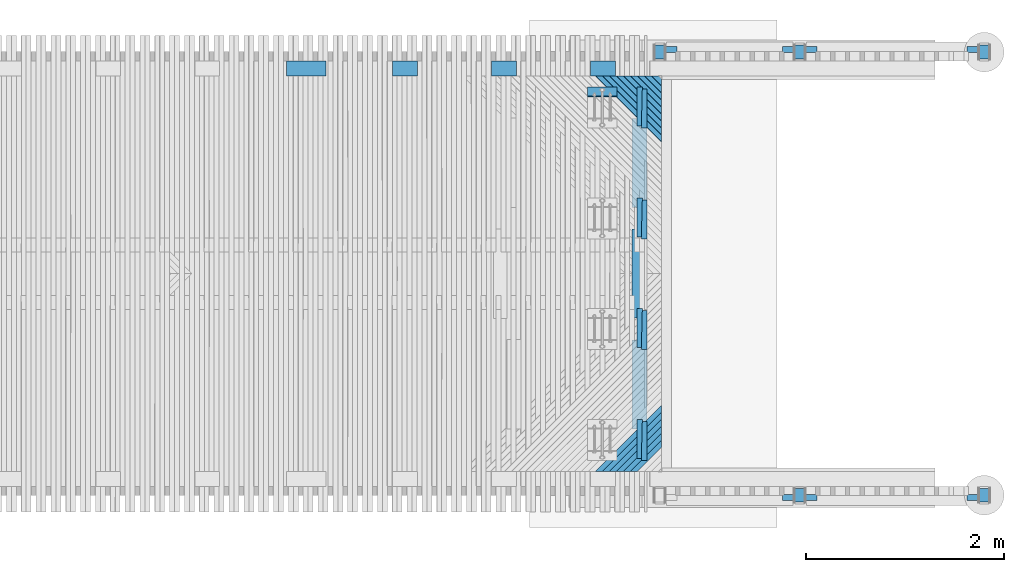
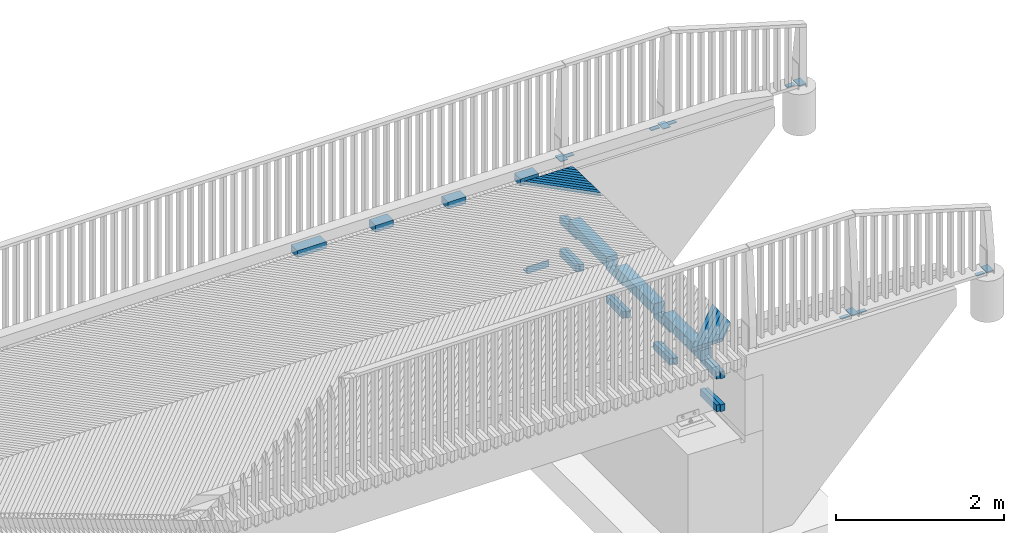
# One storey, part 45 of 47: 51 beams.
"""IFC2X3 building model written with IfcOpenShell, lengths in millimetres."""

from ifc_helpers import new_model, si_unit, frame, origin_with_axes, place, context, subcontext, project, spatial, faceted_brep, material, type_object, element, save


model = new_model("IFC2X3")

# Units and contexts
model_context = context("Model", 3, precision=1e-05, world=origin_with_axes())
body_context = subcontext(model_context, "Body", "Model", "MODEL_VIEW")
ifc_project = project(units=[si_unit("LENGTHUNIT", "METRE", prefix="MILLI"), si_unit("AREAUNIT", "SQUARE_METRE"), si_unit("VOLUMEUNIT", "CUBIC_METRE"), si_unit("MASSUNIT", "GRAM", prefix="KILO"), si_unit("TIMEUNIT", "SECOND"), si_unit("PLANEANGLEUNIT", "RADIAN"), si_unit("SOLIDANGLEUNIT", "STERADIAN"), si_unit("THERMODYNAMICTEMPERATUREUNIT", "DEGREE_CELSIUS"), si_unit("LUMINOUSINTENSITYUNIT", "LUMEN")], contexts=[model_context])

# Site, building, storey
site_placement = place(None, origin_with_axes())
site = spatial("IfcSite", under=ifc_project, at=site_placement, Name="Undefined", CompositionType="ELEMENT")
building_placement = place(site_placement, origin_with_axes())
building = spatial("IfcBuilding", under=site, at=building_placement, Name="Undefined", CompositionType="ELEMENT")
storey_placement = place(building_placement, origin_with_axes())
storey = spatial("IfcBuildingStorey", under=building, at=storey_placement, Name="Undefined", CompositionType="ELEMENT", Elevation=0.0)

# Beams
ifc_material_1 = material(Name="STEEL/AISI316")
beam_type_1 = type_object("IfcBeamType", Name="PL60*10", PredefinedType="NOTDEFINED")
for number, where, z_axis, x_axis in (
    (1, (19802.0394311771, 64630.0000002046, 3074.05721748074), (0.000116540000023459, -0.999999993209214, 0.0), (-0.999999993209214, -0.000116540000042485, 0.0)),
    (2, (16642.0268804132, 64630.0000002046, 3120.19233695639), (-0.000116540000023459, -0.999999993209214, 0.0), (0.999999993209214, -0.000116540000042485, 0.0)),
    (3, (18057.027339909, 64630.0000002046, 3100.31976226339), (-0.000116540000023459, -0.999999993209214, 0.0), (0.999999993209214, -0.000116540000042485, 0.0)),
    (4, (17937.0343320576, 64630.0000002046, 3100.31976226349), (0.000116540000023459, -0.999999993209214, 0.0), (-0.999999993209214, -0.000116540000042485, 0.0)),
    (5, (19802.0394311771, 60099.9999997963, 3074.05721748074), (0.000116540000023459, 0.999999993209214, 0.0), (-0.999999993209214, 0.000116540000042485, 0.0)),
    (6, (18057.027339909, 60099.9999997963, 3100.31976226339), (-0.000116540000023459, 0.999999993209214, 0.0), (0.999999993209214, 0.000116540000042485, 0.0)),
    (7, (17937.0343320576, 60099.9999997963, 3100.31976226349), (0.000116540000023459, 0.999999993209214, 0.0), (-0.999999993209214, 0.000116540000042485, 0.0)),
):
    element("IfcBeam", number, at=place(storey_placement, frame(where, z_axis=z_axis, x_axis=x_axis)), inside=storey, type_object=beam_type_1, material=ifc_material_1, Name="KAIDEPYLVÄS", ObjectType="PL60*10", context=body_context, shape_type="Brep", body=[
        faceted_brep([(3.63797880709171e-12, 5.0, -30.0), (0.0, 5.0, 30.0), (115.000000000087, 5.0, 29.9999999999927), (115.000000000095, 5.0, -30.0), (0.0, -5.0, 30.0), (115.000000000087, -5.0, 29.9999999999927), (3.63797880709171e-12, -5.0, -30.0), (115.000000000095, -5.0, -30.0)], [[[0, 1, 2, 3]], [[1, 4, 5, 2]], [[4, 6, 7, 5]], [[6, 0, 3, 7]], [[5, 7, 3, 2]], [[6, 4, 1, 0]]]),
    ])
beam_type_2 = type_object("IfcBeamType", Name="PL100*10", PredefinedType="NOTDEFINED")
for number, where, z_axis, x_axis in (
    (8, (19862.035934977, 64674.9800000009, 3091.31721748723), (1.0, 0.0, 0.0), (0.0, -1.0, 0.0)),
    (9, (16582.0303763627, 64674.9800000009, 3137.45233696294), (1.0, 0.0, 0.0), (0.0, -1.0, 0.0)),
    (10, (17997.0308358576, 64674.9800000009, 3117.57976226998), (1.0, 0.0, 0.0), (0.0, -1.0, 0.0)),
    (11, (19862.035934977, 60055.02, 3091.31721748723), (1.0, 0.0, 0.0), (0.0, 1.0, 0.0)),
    (12, (17997.0308358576, 60055.02, 3117.57976226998), (1.0, 0.0, 0.0), (0.0, 1.0, 0.0)),
):
    element("IfcBeam", number, at=place(storey_placement, frame(where, z_axis=z_axis, x_axis=x_axis)), inside=storey, type_object=beam_type_2, material=ifc_material_1, Name="KAIDEPYLVÄS", ObjectType="PL100*10", context=body_context, shape_type="Brep", body=[
        faceted_brep([(0.0, 5.0, -50.0), (0.0, 5.0, 50.0), (140.0, 5.0, 50.0), (140.0, 5.0, -50.0), (0.0, -5.0, 50.0), (140.0, -5.0, 50.0), (0.0, -5.0, -50.0), (140.0, -5.0, -50.0)], [[[0, 1, 2, 3]], [[1, 4, 5, 2]], [[4, 6, 7, 5]], [[6, 0, 3, 7]], [[5, 7, 3, 2]], [[6, 4, 1, 0]]]),
    ])
ifc_material_2 = material(Name="TIMBER/Timber_Undefined")
beam_type_3 = type_object("IfcBeamType", Name="150*100", PredefinedType="NOTDEFINED")
beam_1_placement = place(storey_placement, frame((12805.9377995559, 64439.9999999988, 3199.40960826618), z_axis=(0.0, -1.0, 0.0), x_axis=(0.999944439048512, 0.0, -0.0105412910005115)))
element("IfcBeam", 13, at=beam_1_placement, inside=storey, type_object=beam_type_3, material=ifc_material_2, Name="TÖRMÄYSJOHDE", ObjectType="150*100", context=body_context, shape_type="Brep", body=[
    faceted_brep([(-3.63797880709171e-12, 50.0, -75.0), (-3.63797880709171e-12, 50.0, 75.0), (399.996161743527, 49.9999999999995, 75.0), (399.996161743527, 49.9999999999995, -75.0), (0.0, -49.9999999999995, 75.0), (399.996161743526, -50.0000000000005, 75.0), (0.0, -49.9999999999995, -75.0), (399.996161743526, -50.0000000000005, -75.0)], [[[0, 1, 2, 3]], [[1, 4, 5, 2]], [[4, 6, 7, 5]], [[6, 0, 3, 7]], [[5, 7, 3, 2]], [[6, 4, 1, 0]]]),
])
for number, where, z_axis, x_axis in (
    (14, (15881.7966501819, 64439.9999999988, 3166.35655532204), (0.0, -1.0, 0.0), (0.999929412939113, 0.0, -0.0118814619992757)),
    (15, (14881.4642555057, 64439.9999999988, 3178.62153167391), (0.0, -1.0, 0.0), (0.999947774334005, 0.0, -0.0102200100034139)),
    (16, (13881.1128627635, 64439.9999999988, 3189.22438612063), (0.0, -1.0, 0.0), (0.99996337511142, 0.0, -0.00855853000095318)),
):
    element("IfcBeam", number, at=place(storey_placement, frame(where, z_axis=z_axis, x_axis=x_axis)), inside=storey, type_object=beam_type_3, material=ifc_material_2, Name="TÖRMÄYSJOHDE", ObjectType="150*100", context=body_context, shape_type="Brep", body=[
        faceted_brep([(-3.63797880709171e-12, 50.0, -75.0), (-3.63797880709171e-12, 50.0, 75.0), (250.000589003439, 50.0000000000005, 75.0), (250.000589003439, 50.0000000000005, -75.0), (0.0, -49.9999999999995, 75.0), (250.000589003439, -50.0, 75.0), (0.0, -49.9999999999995, -75.0), (250.000589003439, -50.0, -75.0)], [[[0, 1, 2, 3]], [[1, 4, 5, 2]], [[4, 6, 7, 5]], [[6, 0, 3, 7]], [[5, 7, 3, 2]], [[6, 4, 1, 0]]]),
    ])
beam_type_4 = type_object("IfcBeamType", Name="150*150", PredefinedType="NOTDEFINED")
for number, where, z_axis, x_axis, name in (
    (17, (16375.0061224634, 63035.0011300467, 2658.99214114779), (-4.45050000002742e-05, 0.0, 0.999999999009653), (0.0, 1.0, 0.0), "BEAM"),
    (18, (16375.0061224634, 61915.0011300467, 2658.99214114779), (-4.45050000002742e-05, 0.0, 0.999999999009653), (0.0, 1.0, 0.0), "BEAM"),
    (19, (16375.0061224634, 60795.0011300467, 2658.99214114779), (-4.45050000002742e-05, 0.0, 0.999999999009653), (0.0, 1.0, 0.0), "BEAM"),
):
    element("IfcBeam", number, at=place(storey_placement, frame(where, z_axis=z_axis, x_axis=x_axis)), inside=storey, type_object=beam_type_4, material=ifc_material_2, Name=name, ObjectType="150*150", context=body_context, shape_type="Brep", body=[
        faceted_brep([(3.63797880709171e-12, 75.0000000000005, -75.0), (3.63797880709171e-12, 75.0000000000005, 75.0), (900.0, 75.0, 75.0000000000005), (900.0, 74.9999999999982, -74.9999999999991), (0.0, -75.0000000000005, 75.0), (900.0, -75.0000000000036, 75.0000000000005), (0.0, -75.0000000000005, -75.0), (900.0, -75.0, -74.9999999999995)], [[[0, 1, 2, 3]], [[1, 4, 5, 2]], [[4, 6, 7, 5]], [[6, 0, 3, 7]], [[5, 7, 3, 2]], [[6, 4, 1, 0]]]),
    ])
beam_type_5 = type_object("IfcBeamType", Name="50*50", PredefinedType="NOTDEFINED")
beam_2_placement = place(storey_placement, frame((18531.7317784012, 62365.4998996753, 3144.0077743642), z_axis=(0.706781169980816, 0.706981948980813, -0.0252369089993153), x_axis=(-0.707258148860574, 0.706948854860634, -0.00303767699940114)))
element("IfcBeam", 20, at=beam_2_placement, inside=storey, type_object=beam_type_5, material=ifc_material_2, Name="BEAM", ObjectType="50*50", context=body_context, shape_type="Brep", body=[
    faceted_brep([(2804.34067830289, -24.9999999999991, 25.0), (2854.34301907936, -24.9999999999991, -25.0), (2852.92877373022, 25.0000000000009, -25.0), (2802.92643296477, 25.0000000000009, 25.0), (2756.83447595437, 25.0000000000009, 25.0), (2755.72500686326, -24.9999999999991, 25.0000000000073), (2705.75872714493, -24.9999999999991, -25.0), (2706.86819623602, 25.0000000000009, -24.9999999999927)], [[[0, 1, 2, 3]], [[0, 3, 4, 5]], [[1, 0, 5, 6]], [[2, 1, 6, 7]], [[3, 2, 7, 4]], [[6, 5, 4, 7]]]),
])
beam_3_placement = place(storey_placement, frame((18461.0182922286, 62365.4998996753, 3145.24068549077), z_axis=(0.706784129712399, 0.70698194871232, -0.0251538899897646), x_axis=(-0.70725778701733, 0.706948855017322, -0.00312075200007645)))
element("IfcBeam", 21, at=beam_3_placement, inside=storey, type_object=beam_type_5, material=ifc_material_2, Name="BEAM", ObjectType="50*50", context=body_context, shape_type="Brep", body=[
    faceted_brep([(2804.34067830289, -24.9999999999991, 25.0), (2854.34301907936, -24.9999999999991, -25.0), (2852.92877373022, 25.0000000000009, -25.0), (2802.92643296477, 25.0000000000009, 25.0), (2656.84922092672, 25.0, 25.0), (2655.74805253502, -25.0, 25.0000000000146), (2605.78153801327, -25.0000000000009, -24.9999999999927), (2606.88270640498, 25.0, -25.0)], [[[0, 1, 2, 3]], [[0, 3, 4, 5]], [[1, 0, 5, 6]], [[2, 1, 6, 7]], [[3, 2, 7, 4]], [[6, 5, 4, 7]]]),
])
beam_4_placement = place(storey_placement, frame((18390.3046617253, 62365.4998996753, 3146.4652905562), z_axis=(0.70678707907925, 0.706981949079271, -0.0250708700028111), x_axis=(-0.707257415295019, 0.706948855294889, -0.00320382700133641)))
element("IfcBeam", 22, at=beam_4_placement, inside=storey, type_object=beam_type_5, material=ifc_material_2, Name="BEAM", ObjectType="50*50", context=body_context, shape_type="Brep", body=[
    faceted_brep([(2804.34067830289, -24.9999999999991, 25.0), (2854.34301907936, -24.9999999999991, -25.0), (2852.92877373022, 25.0000000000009, -25.0), (2802.92643296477, 25.0000000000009, 25.0), (2556.86369484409, 25.0000000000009, 24.9999999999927), (2555.77082719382, -25.0, 24.9999999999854), (2505.80407790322, -25.0, -25.0000000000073), (2506.89694555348, 25.0, -25.0)], [[[0, 1, 2, 3]], [[0, 3, 4, 5]], [[1, 0, 5, 6]], [[2, 1, 6, 7]], [[3, 2, 7, 4]], [[6, 5, 4, 7]]]),
])
beam_5_placement = place(storey_placement, frame((18319.5908878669, 62364.5001003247, 3147.68158954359), z_axis=(0.706790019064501, -0.706981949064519, -0.0249878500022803), x_axis=(-0.707257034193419, -0.706948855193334, -0.00328690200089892)))
element("IfcBeam", 23, at=beam_5_placement, inside=storey, type_object=beam_type_5, material=ifc_material_2, Name="BEAM", ObjectType="50*50", context=body_context, shape_type="Brep", body=[
    faceted_brep([(2802.92643296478, -25.0000000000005, 25.0000000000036), (2852.92877373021, -25.0000000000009, -24.9999999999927), (2854.34301907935, 24.9999999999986, -24.9999999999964), (2804.3406783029, 24.9999999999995, 25.0000000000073), (2405.82634224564, 25.0000000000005, -25.0), (2455.79332630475, 25.0000000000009, 25.0000000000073), (2456.87789321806, -24.9999999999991, 25.0000000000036), (2406.91090915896, -24.9999999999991, -24.9999999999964)], [[[0, 1, 2, 3]], [[3, 2, 4, 5]], [[0, 3, 5, 6]], [[1, 0, 6, 7]], [[2, 1, 7, 4]], [[6, 5, 4, 7]]]),
])
beam_6_placement = place(storey_placement, frame((18319.5908878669, 62365.4998996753, 3147.68158954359), z_axis=(0.706790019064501, 0.706981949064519, -0.0249878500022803), x_axis=(-0.707257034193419, 0.706948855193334, -0.00328690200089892)))
element("IfcBeam", 24, at=beam_6_placement, inside=storey, type_object=beam_type_5, material=ifc_material_2, Name="BEAM", ObjectType="50*50", context=body_context, shape_type="Brep", body=[
    faceted_brep([(2804.34067830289, -24.9999999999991, 25.0), (2854.34301907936, -24.9999999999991, -25.0), (2852.92877373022, 25.0000000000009, -25.0), (2802.92643296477, 25.0000000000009, 25.0), (2456.87789321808, 25.0, 25.0000000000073), (2455.79332630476, -25.0, 25.0000000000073), (2405.82634224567, -25.0, -25.0), (2406.91090915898, 24.9999999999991, -24.9999999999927)], [[[0, 1, 2, 3]], [[0, 3, 4, 5]], [[1, 0, 5, 6]], [[2, 1, 6, 7]], [[3, 2, 7, 4]], [[6, 5, 4, 7]]]),
])
beam_7_placement = place(storey_placement, frame((18248.8769716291, 62364.5001003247, 3148.88958243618), z_axis=(0.706792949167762, -0.706981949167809, -0.0249048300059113), x_axis=(-0.707256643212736, -0.706948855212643, -0.00336997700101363)))
element("IfcBeam", 25, at=beam_7_placement, inside=storey, type_object=beam_type_5, material=ifc_material_2, Name="BEAM", ObjectType="50*50", context=body_context, shape_type="Brep", body=[
    faceted_brep([(2802.92643296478, -25.0000000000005, 25.0000000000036), (2852.92877373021, -25.0000000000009, -24.9999999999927), (2854.34301907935, 24.9999999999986, -24.9999999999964), (2804.3406783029, 24.9999999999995, 25.0000000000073), (2305.84833008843, 25.0, -24.9999999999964), (2355.81554891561, 24.9999999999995, 25.0000000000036), (2356.89181509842, -25.0000000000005, 25.0000000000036), (2306.92459627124, -25.0, -24.9999999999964)], [[[0, 1, 2, 3]], [[3, 2, 4, 5]], [[0, 3, 5, 6]], [[1, 0, 6, 7]], [[2, 1, 7, 4]], [[6, 5, 4, 7]]]),
])
beam_8_placement = place(storey_placement, frame((18248.8769716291, 62365.4998996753, 3148.88958243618), z_axis=(0.706792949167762, 0.706981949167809, -0.0249048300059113), x_axis=(-0.707256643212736, 0.706948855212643, -0.00336997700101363)))
element("IfcBeam", 26, at=beam_8_placement, inside=storey, type_object=beam_type_5, material=ifc_material_2, Name="BEAM", ObjectType="50*50", context=body_context, shape_type="Brep", body=[
    faceted_brep([(2804.34067830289, -24.9999999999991, 25.0), (2854.34301907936, -24.9999999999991, -25.0), (2852.92877373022, 25.0000000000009, -25.0), (2802.92643296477, 25.0000000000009, 25.0), (2356.89181509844, 25.0, 25.0), (2355.81554891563, -25.0, 25.0), (2305.84833008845, -25.0, -25.0), (2306.92459627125, 25.0, -25.0)], [[[0, 1, 2, 3]], [[0, 3, 4, 5]], [[1, 0, 5, 6]], [[2, 1, 6, 7]], [[3, 2, 7, 4]], [[6, 5, 4, 7]]]),
])
beam_9_placement = place(storey_placement, frame((18178.1629139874, 62364.5001003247, 3150.08926921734), z_axis=(0.706795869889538, -0.706981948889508, -0.0248218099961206), x_axis=(-0.707256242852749, -0.706948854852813, -0.00345305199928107)))
element("IfcBeam", 27, at=beam_9_placement, inside=storey, type_object=beam_type_5, material=ifc_material_2, Name="BEAM", ObjectType="50*50", context=body_context, shape_type="Brep", body=[
    faceted_brep([(2802.92643296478, -25.0000000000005, 25.0000000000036), (2852.92877373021, -25.0000000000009, -24.9999999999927), (2854.34301907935, 24.9999999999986, -24.9999999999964), (2804.3406783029, 24.9999999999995, 25.0000000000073), (2205.87003704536, 25.0000000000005, -24.9999999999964), (2255.83749064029, 25.0, 24.9999999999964), (2256.90545609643, -25.0000000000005, 24.9999999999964), (2206.93800250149, -24.9999999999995, -25.0)], [[[0, 1, 2, 3]], [[3, 2, 4, 5]], [[0, 3, 5, 6]], [[1, 0, 6, 7]], [[2, 1, 7, 4]], [[6, 5, 4, 7]]]),
])
beam_10_placement = place(storey_placement, frame((18178.1629139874, 62365.4998996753, 3150.08926921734), z_axis=(0.706795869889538, 0.706981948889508, -0.0248218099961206), x_axis=(-0.707256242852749, 0.706948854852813, -0.00345305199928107)))
element("IfcBeam", 28, at=beam_10_placement, inside=storey, type_object=beam_type_5, material=ifc_material_2, Name="BEAM", ObjectType="50*50", context=body_context, shape_type="Brep", body=[
    faceted_brep([(2804.34067830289, -24.9999999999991, 25.0), (2854.34301907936, -24.9999999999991, -25.0), (2852.92877373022, 25.0000000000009, -25.0), (2802.92643296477, 25.0000000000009, 25.0), (2256.90545609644, 25.0000000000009, 24.9999999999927), (2255.8374906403, -24.9999999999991, 24.9999999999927), (2205.87003704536, -25.0, -25.0), (2206.9380025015, 25.0, -25.0)], [[[0, 1, 2, 3]], [[0, 3, 4, 5]], [[1, 0, 5, 6]], [[2, 1, 6, 7]], [[3, 2, 7, 4]], [[6, 5, 4, 7]]]),
])
beam_11_placement = place(storey_placement, frame((18107.4487159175, 62364.5001003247, 3151.28064987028), z_axis=(0.706798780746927, -0.706981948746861, -0.0247387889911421), x_axis=(-0.707255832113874, -0.706948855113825, -0.00353612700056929)))
element("IfcBeam", 29, at=beam_11_placement, inside=storey, type_object=beam_type_5, material=ifc_material_2, Name="BEAM", ObjectType="50*50", context=body_context, shape_type="Brep", body=[
    faceted_brep([(2802.92643296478, -25.0000000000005, 25.0000000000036), (2852.92877373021, -25.0000000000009, -24.9999999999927), (2854.34301907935, 24.9999999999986, -24.9999999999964), (2804.3406783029, 24.9999999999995, 25.0000000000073), (2105.891463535, 24.9999999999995, -24.9999999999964), (2155.85915193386, 24.9999999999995, 25.0000000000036), (2156.91881662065, -24.9999999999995, 25.0), (2106.95112822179, -24.9999999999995, -24.9999999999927)], [[[0, 1, 2, 3]], [[3, 2, 4, 5]], [[0, 3, 5, 6]], [[1, 0, 6, 7]], [[2, 1, 7, 4]], [[6, 5, 4, 7]]]),
])
beam_12_placement = place(storey_placement, frame((18107.4487159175, 62365.4998996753, 3151.28064987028), z_axis=(0.706798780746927, 0.706981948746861, -0.0247387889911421), x_axis=(-0.707255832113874, 0.706948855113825, -0.00353612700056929)))
element("IfcBeam", 30, at=beam_12_placement, inside=storey, type_object=beam_type_5, material=ifc_material_2, Name="BEAM", ObjectType="50*50", context=body_context, shape_type="Brep", body=[
    faceted_brep([(2804.34067830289, -24.9999999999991, 25.0), (2854.34301907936, -24.9999999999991, -25.0), (2852.92877373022, 25.0000000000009, -25.0), (2802.92643296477, 25.0000000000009, 25.0), (2156.91881662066, 24.9999999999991, 24.9999999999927), (2155.85915193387, -25.0, 25.0000000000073), (2105.891463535, -25.0, -24.9999999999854), (2106.9511282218, 24.9999999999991, -24.9999999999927)], [[[0, 1, 2, 3]], [[0, 3, 4, 5]], [[1, 0, 5, 6]], [[2, 1, 6, 7]], [[3, 2, 7, 4]], [[6, 5, 4, 7]]]),
])
beam_13_placement = place(storey_placement, frame((18036.7343783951, 62364.5001003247, 3152.46372437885), z_axis=(0.706801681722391, -0.706981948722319, -0.024655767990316), x_axis=(-0.707255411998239, -0.70694885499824, -0.00361920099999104)))
element("IfcBeam", 31, at=beam_13_placement, inside=storey, type_object=beam_type_5, material=ifc_material_2, Name="BEAM", ObjectType="50*50", context=body_context, shape_type="Brep", body=[
    faceted_brep([(2802.92643296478, -25.0000000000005, 25.0000000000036), (2852.92877373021, -25.0000000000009, -24.9999999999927), (2854.34301907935, 24.9999999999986, -24.9999999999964), (2804.3406783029, 24.9999999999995, 25.0000000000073), (2005.91260364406, 24.9999999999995, -24.9999999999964), (2055.88052681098, 25.0, 25.0), (2056.9318907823, -25.0, 25.0), (2006.96396761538, -25.0000000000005, -25.0000000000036)], [[[0, 1, 2, 3]], [[3, 2, 4, 5]], [[0, 3, 5, 6]], [[1, 0, 6, 7]], [[2, 1, 7, 4]], [[6, 5, 4, 7]]]),
])
beam_14_placement = place(storey_placement, frame((18036.7343783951, 62365.4998996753, 3152.46372437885), z_axis=(0.706801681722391, 0.706981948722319, -0.024655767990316), x_axis=(-0.707255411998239, 0.70694885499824, -0.00361920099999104)))
element("IfcBeam", 32, at=beam_14_placement, inside=storey, type_object=beam_type_5, material=ifc_material_2, Name="BEAM", ObjectType="50*50", context=body_context, shape_type="Brep", body=[
    faceted_brep([(2804.34067830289, -24.9999999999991, 25.0), (2854.34301907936, -24.9999999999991, -25.0), (2852.92877373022, 25.0000000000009, -25.0), (2802.92643296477, 25.0000000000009, 25.0), (2056.93189078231, 25.0000000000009, 25.0000000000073), (2055.88052681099, -24.9999999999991, 25.0), (2005.91260364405, -24.9999999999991, -24.9999999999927), (2006.96396761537, 25.0000000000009, -25.0)], [[[0, 1, 2, 3]], [[0, 3, 4, 5]], [[1, 0, 5, 6]], [[2, 1, 6, 7]], [[3, 2, 7, 4]], [[6, 5, 4, 7]]]),
])
beam_15_placement = place(storey_placement, frame((17966.0199023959, 62364.5001003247, 3153.6384927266), z_axis=(0.70680457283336, -0.706981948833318, -0.0245727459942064), x_axis=(-0.707254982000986, -0.706948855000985, -0.00370227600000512)))
element("IfcBeam", 33, at=beam_15_placement, inside=storey, type_object=beam_type_5, material=ifc_material_2, Name="BEAM", ObjectType="50*50", context=body_context, shape_type="Brep", body=[
    faceted_brep([(2802.92643296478, -25.0000000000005, 25.0000000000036), (2852.92877373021, -25.0000000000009, -24.9999999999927), (2854.34301907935, 24.9999999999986, -24.9999999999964), (2804.3406783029, 24.9999999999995, 25.0000000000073), (1905.93345620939, 25.0, -25.0000000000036), (1955.90161414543, 24.9999999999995, 25.0), (1956.94467730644, -25.0, 25.0000000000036), (1906.9765193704, -25.0, -25.0000000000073)], [[[0, 1, 2, 3]], [[3, 2, 4, 5]], [[0, 3, 5, 6]], [[1, 0, 6, 7]], [[2, 1, 7, 4]], [[6, 5, 4, 7]]]),
])
beam_16_placement = place(storey_placement, frame((17966.0199023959, 62365.4998996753, 3153.6384927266), z_axis=(0.70680457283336, 0.706981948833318, -0.0245727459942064), x_axis=(-0.707254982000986, 0.706948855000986, -0.00370227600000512)))
element("IfcBeam", 34, at=beam_16_placement, inside=storey, type_object=beam_type_5, material=ifc_material_2, Name="BEAM", ObjectType="50*50", context=body_context, shape_type="Brep", body=[
    faceted_brep([(2804.34067830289, -24.9999999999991, 25.0), (2854.34301907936, -24.9999999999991, -25.0), (2852.92877373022, 25.0000000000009, -25.0), (2802.92643296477, 25.0000000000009, 25.0), (1956.94467730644, 25.0, 25.0), (1955.90161414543, -25.0000000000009, 25.0), (1905.9334562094, -25.0000000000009, -25.0), (1906.9765193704, 25.0, -25.0)], [[[0, 1, 2, 3]], [[0, 3, 4, 5]], [[1, 0, 5, 6]], [[2, 1, 6, 7]], [[3, 2, 7, 4]], [[6, 5, 4, 7]]]),
])
ifc_material_3 = material(Name="STEEL/S235JR")
beam_type_6 = type_object("IfcBeamType", Name="L100*10", PredefinedType="NOTDEFINED")
beam_17_placement = place(storey_placement, frame((16150.0, 64202.5000000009, 2025.33), z_axis=(0.0, 0.0, 1.0), x_axis=(-1.0, 0.0, 0.0)))
element("IfcBeam", 35, at=beam_17_placement, inside=storey, type_object=beam_type_6, material=ifc_material_3, Name="BEAM", ObjectType="L100*10", context=body_context, shape_type="Brep", body=[
    faceted_brep([(0.0, 50.0, -50.0), (0.0, 50.0, 50.0), (300.0, 50.0, 50.0), (300.0, 50.0, -50.0), (0.0, 40.0, 50.0), (300.0, 40.0, 50.0), (0.0, 40.0, -40.0), (300.0, 40.0, -40.0), (0.0, -50.0, -40.0), (300.0, -50.0, -40.0), (0.0, -50.0, -50.0), (300.0, -50.0, -50.0)], [[[0, 1, 2, 3]], [[1, 4, 5, 2]], [[4, 6, 7, 5]], [[6, 8, 9, 7]], [[8, 10, 11, 9]], [[10, 0, 3, 11]], [[5, 7, 9, 11, 3, 2]], [[10, 8, 6, 4, 1, 0]]]),
])
beam_type_7 = type_object("IfcBeamType", Name="100*60", PredefinedType="NOTDEFINED")
beam_18_placement = place(storey_placement, frame((16380.01, 63857.5, 2533.62000000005), z_axis=(0.0, 0.0, 1.0), x_axis=(0.0, 1.0, 0.0)))
element("IfcBeam", 36, at=beam_18_placement, inside=storey, type_object=beam_type_7, material=ifc_material_2, Name="BEAM", ObjectType="100*60", context=body_context, shape_type="Brep", body=[
    faceted_brep([(0.0, 30.0, -50.0), (0.0, 30.0, 50.0), (395.0, 30.0, 50.0), (395.0, 30.0, -50.0), (395.0, -25.2500000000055, 50.0), (395.0, -25.2500000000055, -50.0), (0.0, -15.2499998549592, -50.0), (0.0, -15.2499998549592, 50.0)], [[[0, 1, 2, 3]], [[3, 2, 4, 5]], [[0, 3, 5, 6]], [[1, 0, 6, 7]], [[2, 1, 7, 4]], [[6, 5, 4, 7]]]),
])
beam_19_placement = place(storey_placement, frame((16420.01, 63837.5, 2533.62000000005), z_axis=(0.0, 0.0, 1.0), x_axis=(0.0, 1.0, 0.0)))
element("IfcBeam", 37, at=beam_19_placement, inside=storey, type_object=beam_type_7, material=ifc_material_2, Name="BEAM", ObjectType="100*60", context=body_context, shape_type="Brep", body=[
    faceted_brep([(0.0, -30.0, 50.0), (0.0, -30.0, -50.0), (395.0, -30.0, -50.0), (395.0, -30.0, 50.0), (395.0, 15.2563291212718, 50.0), (0.0, 25.2563292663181, 50.0), (0.0, 25.2563292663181, -50.0), (395.0, 15.2563291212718, -50.0)], [[[0, 1, 2, 3]], [[0, 3, 4, 5]], [[1, 0, 5, 6]], [[2, 1, 6, 7]], [[3, 2, 7, 4]], [[6, 5, 4, 7]]]),
])
beam_20_placement = place(storey_placement, frame((16380.0, 63857.5, 2055.33), z_axis=(0.0, 0.0, 1.0), x_axis=(0.0, 1.0, 0.0)))
element("IfcBeam", 38, at=beam_20_placement, inside=storey, type_object=beam_type_7, material=ifc_material_2, Name="BEAM", ObjectType="100*60", context=body_context, shape_type="Brep", body=[
    faceted_brep([(0.0, 30.0, -50.0), (0.0, 30.0, 50.0), (395.0, 30.0, 50.0), (395.0, 30.0, -50.0), (395.0, -25.2500000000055, 50.0), (395.0, -25.2500000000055, -50.0), (0.0, -15.2499998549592, -50.0), (0.0, -15.2499998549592, 50.0)], [[[0, 1, 2, 3]], [[3, 2, 4, 5]], [[0, 3, 5, 6]], [[1, 0, 6, 7]], [[2, 1, 7, 4]], [[6, 5, 4, 7]]]),
])
beam_21_placement = place(storey_placement, frame((16420.0, 63837.5, 2055.33), z_axis=(0.0, 0.0, 1.0), x_axis=(0.0, 1.0, 0.0)))
element("IfcBeam", 39, at=beam_21_placement, inside=storey, type_object=beam_type_7, material=ifc_material_2, Name="BEAM", ObjectType="100*60", context=body_context, shape_type="Brep", body=[
    faceted_brep([(0.0, -30.0, 50.0), (0.0, -30.0, -50.0), (395.0, -30.0, -50.0), (395.0, -30.0, 50.0), (395.0, 15.2563291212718, 50.0), (0.0, 25.2563292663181, 50.0), (0.0, 25.2563292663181, -50.0), (395.0, 15.2563291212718, -50.0)], [[[0, 1, 2, 3]], [[0, 3, 4, 5]], [[1, 0, 5, 6]], [[2, 1, 6, 7]], [[3, 2, 7, 4]], [[6, 5, 4, 7]]]),
])
beam_22_placement = place(storey_placement, frame((16380.01, 62737.5, 2533.62000000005), z_axis=(0.0, 0.0, 1.0), x_axis=(0.0, 1.0, 0.0)))
element("IfcBeam", 40, at=beam_22_placement, inside=storey, type_object=beam_type_7, material=ifc_material_2, Name="BEAM", ObjectType="100*60", context=body_context, shape_type="Brep", body=[
    faceted_brep([(0.0, 30.0, -50.0), (0.0, 30.0, 50.0), (395.0, 30.0, 50.0), (395.0, 30.0, -50.0), (395.0, -25.2500000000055, 50.0), (395.0, -25.2500000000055, -50.0), (0.0, -15.2499998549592, -50.0), (0.0, -15.2499998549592, 50.0)], [[[0, 1, 2, 3]], [[3, 2, 4, 5]], [[0, 3, 5, 6]], [[1, 0, 6, 7]], [[2, 1, 7, 4]], [[6, 5, 4, 7]]]),
])
beam_23_placement = place(storey_placement, frame((16420.01, 62717.5, 2533.62000000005), z_axis=(0.0, 0.0, 1.0), x_axis=(0.0, 1.0, 0.0)))
element("IfcBeam", 41, at=beam_23_placement, inside=storey, type_object=beam_type_7, material=ifc_material_2, Name="BEAM", ObjectType="100*60", context=body_context, shape_type="Brep", body=[
    faceted_brep([(0.0, -30.0, 50.0), (0.0, -30.0, -50.0), (395.0, -30.0, -50.0), (395.0, -30.0, 50.0), (395.0, 15.2563291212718, 50.0), (0.0, 25.2563292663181, 50.0), (0.0, 25.2563292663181, -50.0), (395.0, 15.2563291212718, -50.0)], [[[0, 1, 2, 3]], [[0, 3, 4, 5]], [[1, 0, 5, 6]], [[2, 1, 6, 7]], [[3, 2, 7, 4]], [[6, 5, 4, 7]]]),
])
beam_24_placement = place(storey_placement, frame((16380.0, 62737.5, 2055.33), z_axis=(0.0, 0.0, 1.0), x_axis=(0.0, 1.0, 0.0)))
element("IfcBeam", 42, at=beam_24_placement, inside=storey, type_object=beam_type_7, material=ifc_material_2, Name="BEAM", ObjectType="100*60", context=body_context, shape_type="Brep", body=[
    faceted_brep([(0.0, 30.0, -50.0), (0.0, 30.0, 50.0), (395.0, 30.0, 50.0), (395.0, 30.0, -50.0), (395.0, -25.2500000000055, 50.0), (395.0, -25.2500000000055, -50.0), (0.0, -15.2499998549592, -50.0), (0.0, -15.2499998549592, 50.0)], [[[0, 1, 2, 3]], [[3, 2, 4, 5]], [[0, 3, 5, 6]], [[1, 0, 6, 7]], [[2, 1, 7, 4]], [[6, 5, 4, 7]]]),
])
beam_25_placement = place(storey_placement, frame((16420.0, 62717.5, 2055.33), z_axis=(0.0, 0.0, 1.0), x_axis=(0.0, 1.0, 0.0)))
element("IfcBeam", 43, at=beam_25_placement, inside=storey, type_object=beam_type_7, material=ifc_material_2, Name="BEAM", ObjectType="100*60", context=body_context, shape_type="Brep", body=[
    faceted_brep([(0.0, -30.0, 50.0), (0.0, -30.0, -50.0), (395.0, -30.0, -50.0), (395.0, -30.0, 50.0), (395.0, 15.2563291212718, 50.0), (0.0, 25.2563292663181, 50.0), (0.0, 25.2563292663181, -50.0), (395.0, 15.2563291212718, -50.0)], [[[0, 1, 2, 3]], [[0, 3, 4, 5]], [[1, 0, 5, 6]], [[2, 1, 6, 7]], [[3, 2, 7, 4]], [[6, 5, 4, 7]]]),
])
beam_26_placement = place(storey_placement, frame((16380.01, 61617.5, 2533.62000000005), z_axis=(0.0, 0.0, 1.0), x_axis=(0.0, 1.0, 0.0)))
element("IfcBeam", 44, at=beam_26_placement, inside=storey, type_object=beam_type_7, material=ifc_material_2, Name="BEAM", ObjectType="100*60", context=body_context, shape_type="Brep", body=[
    faceted_brep([(0.0, 30.0, -50.0), (0.0, 30.0, 50.0), (395.0, 30.0, 50.0), (395.0, 30.0, -50.0), (395.0, -25.2500000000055, 50.0), (395.0, -25.2500000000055, -50.0), (0.0, -15.2499998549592, -50.0), (0.0, -15.2499998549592, 50.0)], [[[0, 1, 2, 3]], [[3, 2, 4, 5]], [[0, 3, 5, 6]], [[1, 0, 6, 7]], [[2, 1, 7, 4]], [[6, 5, 4, 7]]]),
])
beam_27_placement = place(storey_placement, frame((16420.01, 61597.5, 2533.62000000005), z_axis=(0.0, 0.0, 1.0), x_axis=(0.0, 1.0, 0.0)))
element("IfcBeam", 45, at=beam_27_placement, inside=storey, type_object=beam_type_7, material=ifc_material_2, Name="BEAM", ObjectType="100*60", context=body_context, shape_type="Brep", body=[
    faceted_brep([(0.0, -30.0, 50.0), (0.0, -30.0, -50.0), (395.0, -30.0, -50.0), (395.0, -30.0, 50.0), (395.0, 15.2563291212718, 50.0), (0.0, 25.2563292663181, 50.0), (0.0, 25.2563292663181, -50.0), (395.0, 15.2563291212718, -50.0)], [[[0, 1, 2, 3]], [[0, 3, 4, 5]], [[1, 0, 5, 6]], [[2, 1, 6, 7]], [[3, 2, 7, 4]], [[6, 5, 4, 7]]]),
])
beam_28_placement = place(storey_placement, frame((16380.0, 61617.5, 2055.33), z_axis=(0.0, 0.0, 1.0), x_axis=(0.0, 1.0, 0.0)))
element("IfcBeam", 46, at=beam_28_placement, inside=storey, type_object=beam_type_7, material=ifc_material_2, Name="BEAM", ObjectType="100*60", context=body_context, shape_type="Brep", body=[
    faceted_brep([(0.0, 30.0, -50.0), (0.0, 30.0, 50.0), (395.0, 30.0, 50.0), (395.0, 30.0, -50.0), (395.0, -25.2500000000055, 50.0), (395.0, -25.2500000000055, -50.0), (0.0, -15.2499998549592, -50.0), (0.0, -15.2499998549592, 50.0)], [[[0, 1, 2, 3]], [[3, 2, 4, 5]], [[0, 3, 5, 6]], [[1, 0, 6, 7]], [[2, 1, 7, 4]], [[6, 5, 4, 7]]]),
])
beam_29_placement = place(storey_placement, frame((16420.0, 61597.5, 2055.33), z_axis=(0.0, 0.0, 1.0), x_axis=(0.0, 1.0, 0.0)))
element("IfcBeam", 47, at=beam_29_placement, inside=storey, type_object=beam_type_7, material=ifc_material_2, Name="BEAM", ObjectType="100*60", context=body_context, shape_type="Brep", body=[
    faceted_brep([(0.0, -30.0, 50.0), (0.0, -30.0, -50.0), (395.0, -30.0, -50.0), (395.0, -30.0, 50.0), (395.0, 15.2563291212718, 50.0), (0.0, 25.2563292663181, 50.0), (0.0, 25.2563292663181, -50.0), (395.0, 15.2563291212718, -50.0)], [[[0, 1, 2, 3]], [[0, 3, 4, 5]], [[1, 0, 5, 6]], [[2, 1, 6, 7]], [[3, 2, 7, 4]], [[6, 5, 4, 7]]]),
])
beam_30_placement = place(storey_placement, frame((16380.01, 60497.5, 2533.62000000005), z_axis=(0.0, 0.0, 1.0), x_axis=(0.0, 1.0, 0.0)))
element("IfcBeam", 48, at=beam_30_placement, inside=storey, type_object=beam_type_7, material=ifc_material_2, Name="BEAM", ObjectType="100*60", context=body_context, shape_type="Brep", body=[
    faceted_brep([(0.0, 30.0, -50.0), (0.0, 30.0, 50.0), (395.0, 30.0, 50.0), (395.0, 30.0, -50.0), (395.0, -25.2500000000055, 50.0), (395.0, -25.2500000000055, -50.0), (0.0, -15.2499998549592, -50.0), (0.0, -15.2499998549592, 50.0)], [[[0, 1, 2, 3]], [[3, 2, 4, 5]], [[0, 3, 5, 6]], [[1, 0, 6, 7]], [[2, 1, 7, 4]], [[6, 5, 4, 7]]]),
])
beam_31_placement = place(storey_placement, frame((16420.01, 60477.5, 2533.62000000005), z_axis=(0.0, 0.0, 1.0), x_axis=(0.0, 1.0, 0.0)))
element("IfcBeam", 49, at=beam_31_placement, inside=storey, type_object=beam_type_7, material=ifc_material_2, Name="BEAM", ObjectType="100*60", context=body_context, shape_type="Brep", body=[
    faceted_brep([(0.0, -30.0, 50.0), (0.0, -30.0, -50.0), (395.0, -30.0, -50.0), (395.0, -30.0, 50.0), (395.0, 15.2563291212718, 50.0), (0.0, 25.2563292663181, 50.0), (0.0, 25.2563292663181, -50.0), (395.0, 15.2563291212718, -50.0)], [[[0, 1, 2, 3]], [[0, 3, 4, 5]], [[1, 0, 5, 6]], [[2, 1, 6, 7]], [[3, 2, 7, 4]], [[6, 5, 4, 7]]]),
])
beam_32_placement = place(storey_placement, frame((16380.0, 60497.5, 2055.33), z_axis=(0.0, 0.0, 1.0), x_axis=(0.0, 1.0, 0.0)))
element("IfcBeam", 50, at=beam_32_placement, inside=storey, type_object=beam_type_7, material=ifc_material_2, Name="BEAM", ObjectType="100*60", context=body_context, shape_type="Brep", body=[
    faceted_brep([(0.0, 30.0, -50.0), (0.0, 30.0, 50.0), (395.0, 30.0, 50.0), (395.0, 30.0, -50.0), (395.0, -25.2500000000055, 50.0), (395.0, -25.2500000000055, -50.0), (0.0, -15.2499998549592, -50.0), (0.0, -15.2499998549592, 50.0)], [[[0, 1, 2, 3]], [[3, 2, 4, 5]], [[0, 3, 5, 6]], [[1, 0, 6, 7]], [[2, 1, 7, 4]], [[6, 5, 4, 7]]]),
])
beam_33_placement = place(storey_placement, frame((16420.0, 60477.5, 2055.33), z_axis=(0.0, 0.0, 1.0), x_axis=(0.0, 1.0, 0.0)))
element("IfcBeam", 51, at=beam_33_placement, inside=storey, type_object=beam_type_7, material=ifc_material_2, Name="BEAM", ObjectType="100*60", context=body_context, shape_type="Brep", body=[
    faceted_brep([(0.0, -30.0, 50.0), (0.0, -30.0, -50.0), (395.0, -30.0, -50.0), (395.0, -30.0, 50.0), (395.0, 15.2563291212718, 50.0), (0.0, 25.2563292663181, 50.0), (0.0, 25.2563292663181, -50.0), (395.0, 15.2563291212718, -50.0)], [[[0, 1, 2, 3]], [[0, 3, 4, 5]], [[1, 0, 5, 6]], [[2, 1, 6, 7]], [[3, 2, 7, 4]], [[6, 5, 4, 7]]]),
])

save(model, "model.ifc")
